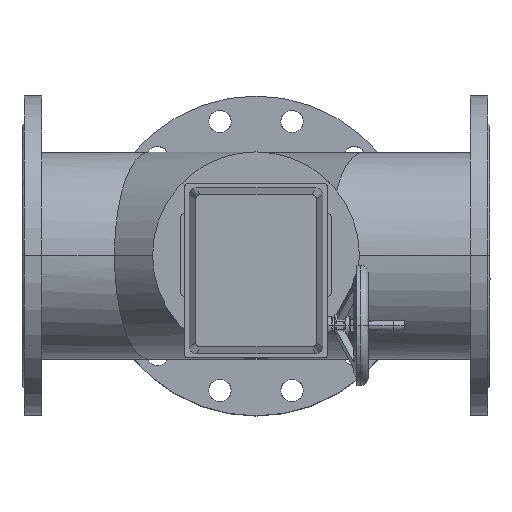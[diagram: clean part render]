
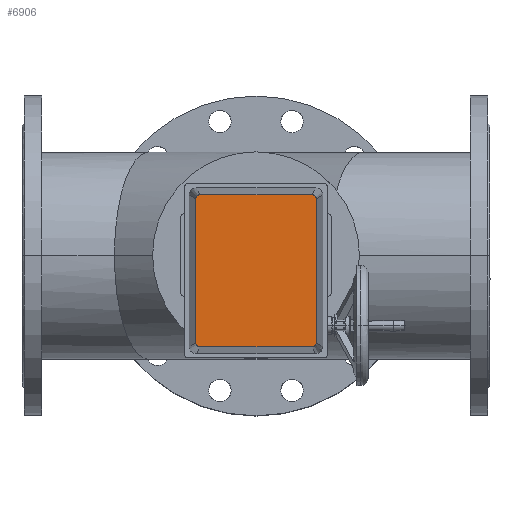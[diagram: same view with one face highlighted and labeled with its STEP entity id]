
A CAD part, top view. The second image highlights one B-rep face of the part: STEP entity #6906.
In plain terms, the highlighted planar face has unit normal (0, 0, 1).
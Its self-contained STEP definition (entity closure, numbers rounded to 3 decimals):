
#434=LINE('',#12018,#794);
#435=LINE('',#12022,#795);
#436=LINE('',#12026,#796);
#437=LINE('',#12030,#797);
#794=VECTOR('',#9332,304.8);
#795=VECTOR('',#9335,304.8);
#796=VECTOR('',#9338,304.8);
#797=VECTOR('',#9341,304.8);
#1514=FACE_OUTER_BOUND('',#2018,.T.);
#2018=EDGE_LOOP('',(#5402,#5403,#5404,#5405,#5406,#5407,#5408,#5409));
#2530=CIRCLE('',#7657,5.);
#2531=CIRCLE('',#7658,5.);
#2532=CIRCLE('',#7659,5.);
#2533=CIRCLE('',#7660,5.);
#3110=VERTEX_POINT('',#12016);
#3111=VERTEX_POINT('',#12017);
#3112=VERTEX_POINT('',#12019);
#3113=VERTEX_POINT('',#12021);
#3114=VERTEX_POINT('',#12023);
#3115=VERTEX_POINT('',#12025);
#3116=VERTEX_POINT('',#12027);
#3117=VERTEX_POINT('',#12029);
#3902=EDGE_CURVE('',#3110,#3111,#434,.T.);
#3903=EDGE_CURVE('',#3111,#3112,#2530,.T.);
#3904=EDGE_CURVE('',#3112,#3113,#435,.T.);
#3905=EDGE_CURVE('',#3113,#3114,#2531,.T.);
#3906=EDGE_CURVE('',#3114,#3115,#436,.T.);
#3907=EDGE_CURVE('',#3115,#3116,#2532,.T.);
#3908=EDGE_CURVE('',#3116,#3117,#437,.T.);
#3909=EDGE_CURVE('',#3117,#3110,#2533,.T.);
#5402=ORIENTED_EDGE('',*,*,#3902,.T.);
#5403=ORIENTED_EDGE('',*,*,#3903,.T.);
#5404=ORIENTED_EDGE('',*,*,#3904,.T.);
#5405=ORIENTED_EDGE('',*,*,#3905,.T.);
#5406=ORIENTED_EDGE('',*,*,#3906,.T.);
#5407=ORIENTED_EDGE('',*,*,#3907,.T.);
#5408=ORIENTED_EDGE('',*,*,#3908,.T.);
#5409=ORIENTED_EDGE('',*,*,#3909,.T.);
#6208=PLANE('',#7656);
#6906=ADVANCED_FACE('',(#1514),#6208,.T.);
#7656=AXIS2_PLACEMENT_3D('',#12015,#9330,#9331);
#7657=AXIS2_PLACEMENT_3D('',#12020,#9333,#9334);
#7658=AXIS2_PLACEMENT_3D('',#12024,#9336,#9337);
#7659=AXIS2_PLACEMENT_3D('',#12028,#9339,#9340);
#7660=AXIS2_PLACEMENT_3D('',#12031,#9342,#9343);
#9330=DIRECTION('center_axis',(0.,0.,1.));
#9331=DIRECTION('ref_axis',(0.,-1.,0.));
#9332=DIRECTION('',(0.,-1.,0.));
#9333=DIRECTION('center_axis',(0.,0.,1.));
#9334=DIRECTION('ref_axis',(1.,0.,0.));
#9335=DIRECTION('',(1.,0.,0.));
#9336=DIRECTION('center_axis',(0.,0.,1.));
#9337=DIRECTION('ref_axis',(1.,0.,0.));
#9338=DIRECTION('',(0.,1.,0.));
#9339=DIRECTION('center_axis',(0.,0.,1.));
#9340=DIRECTION('ref_axis',(1.,0.,0.));
#9341=DIRECTION('',(-1.,0.,0.));
#9342=DIRECTION('center_axis',(0.,0.,1.));
#9343=DIRECTION('ref_axis',(1.,0.,0.));
#12015=CARTESIAN_POINT('Origin',(-21.551,0.,
592.));
#12016=CARTESIAN_POINT('',(-122.531,75.,592.));
#12017=CARTESIAN_POINT('',(-122.531,-75.,592.));
#12018=CARTESIAN_POINT('',(-122.531,-75.,592.));
#12019=CARTESIAN_POINT('',(-117.531,-80.,592.));
#12020=CARTESIAN_POINT('Origin',(-117.531,-75.,592.));
#12021=CARTESIAN_POINT('',(74.43,-80.,592.));
#12022=CARTESIAN_POINT('',(74.43,-80.,592.));
#12023=CARTESIAN_POINT('',(79.43,-75.,592.));
#12024=CARTESIAN_POINT('Origin',(74.43,-75.,592.));
#12025=CARTESIAN_POINT('',(79.43,75.,592.));
#12026=CARTESIAN_POINT('',(79.43,75.,592.));
#12027=CARTESIAN_POINT('',(74.43,80.,592.));
#12028=CARTESIAN_POINT('Origin',(74.43,75.,592.));
#12029=CARTESIAN_POINT('',(-117.531,80.,592.));
#12030=CARTESIAN_POINT('',(-117.531,80.,592.));
#12031=CARTESIAN_POINT('Origin',(-117.531,75.,592.));
